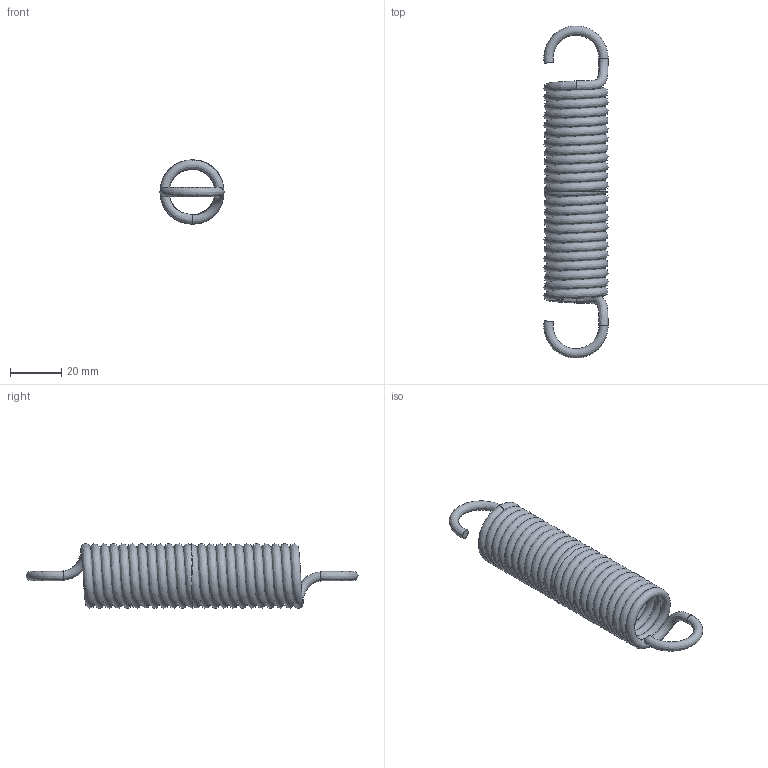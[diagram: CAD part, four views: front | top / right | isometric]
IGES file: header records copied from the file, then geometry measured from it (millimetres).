
Global section: file name: T12250; native system: Autodesk Inventor 2026; preprocessor: unknown; author: J. Iwanek; date: 20261005.100246; units: millimetre
Bounding box: 25 x 129.19 x 25 mm (x, y, z)
Volume: 16950.9 mm3; surface area: 18893.4 mm2
Topology: 1 solids, 1 shells, 10 faces, 36 edges, 24 vertices
Faces by surface type: bspline 10
